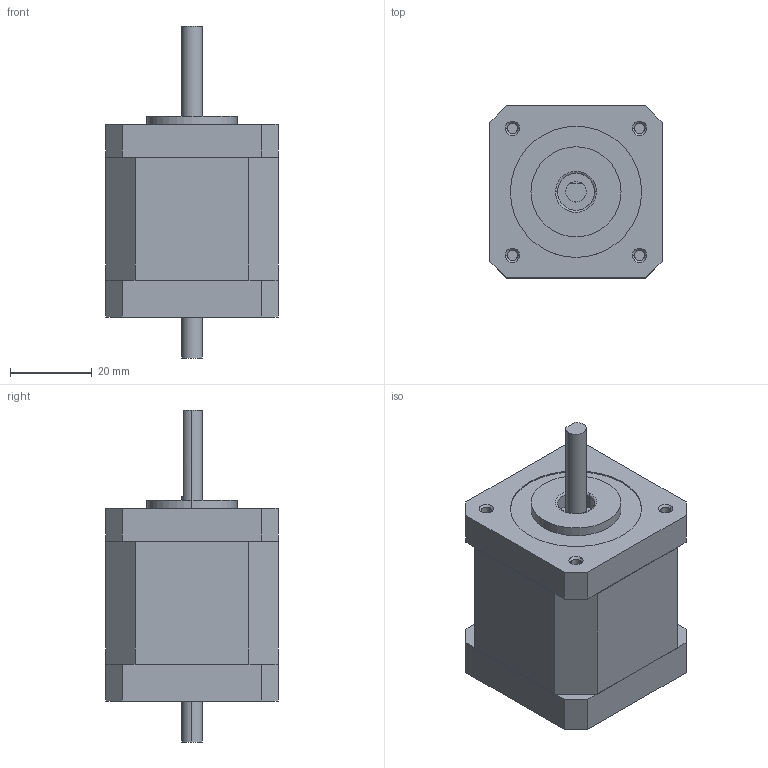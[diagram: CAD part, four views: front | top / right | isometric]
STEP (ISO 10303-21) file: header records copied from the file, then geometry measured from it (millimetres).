
FILE_DESCRIPTION (( 'STEP AP203' ), '1' );
FILE_NAME ('42CM06-SZ MS20.STEP', '2021-04-23T08:11:53', ( 'Owner' ), ( 'Organization' ), 'SwSTEP 2.0', 'SolidWorks 2018', '' );
FILE_SCHEMA (( 'CONFIG_CONTROL_DESIGN' ));
Length unit declared in the file: millimetre
Products named in the file (1): 42CM06-SZ MS20
Bounding box: 42.2 x 42.2 x 81 mm (x, y, z)
Volume: 80518.3 mm3; surface area: 12100.4 mm2
Topology: 1 solids, 1 shells, 180 faces, 442 edges, 286 vertices
Faces by surface type: plane 114, cylinder 56, cone 8, torus 2
Entity records: 5485 total; most frequent: CARTESIAN_POINT 1039, DIRECTION 926, ORIENTED_EDGE 884, EDGE_CURVE 442, LINE 316, VECTOR 316, AXIS2_PLACEMENT_3D 305, VERTEX_POINT 286
